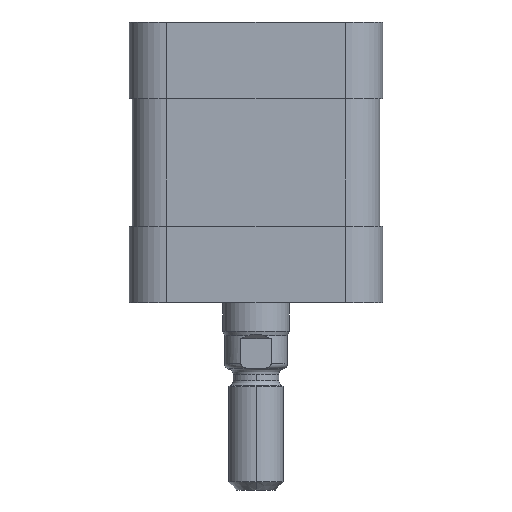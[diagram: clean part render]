
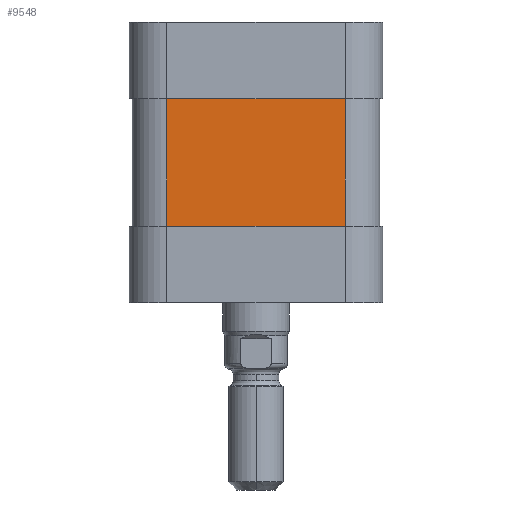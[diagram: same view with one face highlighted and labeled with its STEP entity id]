
A CAD part, front view. The second image highlights one B-rep face of the part: STEP entity #9548.
In plain terms, the highlighted planar face has unit normal (0, -1, 0).
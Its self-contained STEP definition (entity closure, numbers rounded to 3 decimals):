
#5645=CARTESIAN_POINT('',(15.75,-22.,-11.6));
#5646=VERTEX_POINT('',#5645);
#5654=CARTESIAN_POINT('',(-16.75,-22.0,-11.6));
#5655=VERTEX_POINT('',#5654);
#5656=CARTESIAN_POINT('',(-16.75,-22.0,-11.6));
#5657=DIRECTION('',(1.0,0.0,0.0));
#5658=VECTOR('',#5657,32.5);
#5659=LINE('',#5656,#5658);
#5660=EDGE_CURVE('',#5655,#5646,#5659,.T.);
#7722=CARTESIAN_POINT('',(-16.75,-22.0,11.6));
#7723=VERTEX_POINT('',#7722);
#7731=CARTESIAN_POINT('',(15.75,-22.,11.6));
#7732=VERTEX_POINT('',#7731);
#7733=CARTESIAN_POINT('',(15.75,-22.,11.6));
#7734=DIRECTION('',(-1.0,0.0,0.0));
#7735=VECTOR('',#7734,32.5);
#7736=LINE('',#7733,#7735);
#7737=EDGE_CURVE('',#7732,#7723,#7736,.T.);
#9521=CARTESIAN_POINT('',(15.75,-22.,-11.6));
#9522=DIRECTION('',(0.0,0.0,1.0));
#9523=VECTOR('',#9522,23.2);
#9524=LINE('',#9521,#9523);
#9525=EDGE_CURVE('',#5646,#7732,#9524,.T.);
#9532=CARTESIAN_POINT('',(15.75,-22.,-11.6));
#9533=DIRECTION('',(0.0,-1.0,0.0));
#9534=DIRECTION('',(0.0,0.0,-1.0));
#9535=AXIS2_PLACEMENT_3D('',#9532,#9533,#9534);
#9536=PLANE('',#9535);
#9537=ORIENTED_EDGE('',*,*,#7737,.T.);
#9538=CARTESIAN_POINT('',(-16.75,-22.0,-11.6));
#9539=DIRECTION('',(0.0,0.0,1.0));
#9540=VECTOR('',#9539,23.2);
#9541=LINE('',#9538,#9540);
#9542=EDGE_CURVE('',#5655,#7723,#9541,.T.);
#9543=ORIENTED_EDGE('',*,*,#9542,.F.);
#9544=ORIENTED_EDGE('',*,*,#5660,.T.);
#9545=ORIENTED_EDGE('',*,*,#9525,.T.);
#9546=EDGE_LOOP('',(#9537,#9543,#9544,#9545));
#9547=FACE_OUTER_BOUND('',#9546,.T.);
#9548=ADVANCED_FACE('',(#9547),#9536,.T.);
